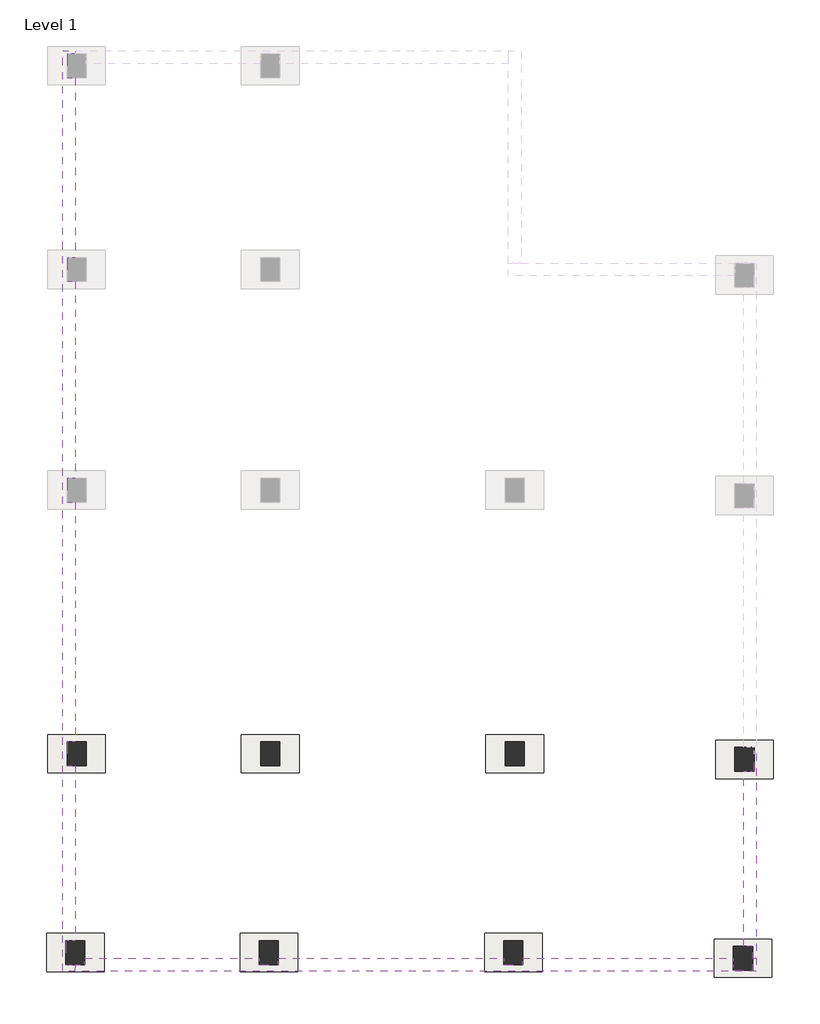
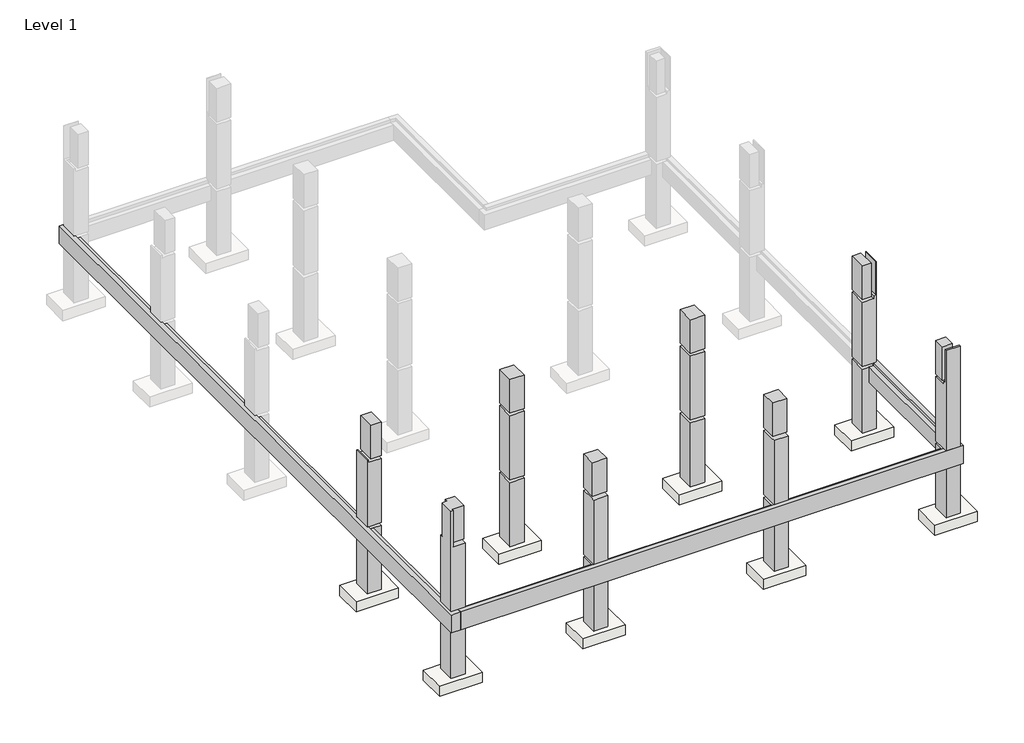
# One storey, part 1 of 2: 8 columns, 8 slabs, 3 beams.
"""IFC4 building model written with IfcOpenShell, lengths in millimetres."""

import ifcopenshell
import ifcopenshell.guid

model = None  # the IFC model being written
_history = None  # IfcOwnerHistory: only IFC2X3 demands one
_inside = {}  # id of a spatial element -> (the spatial element, [elements in it])
_under = {}  # id of a project, library or spatial element -> (it, [spatial elements below it])
_declared = {}  # id of a project -> (the project, [libraries it declares])
_typed = {}  # id of a type object -> (the type object, [elements of that type])
_made_of = {}  # id of a material, layer set ... -> (it, [elements and type objects made of it])


def new_model(schema):
    """Start an empty IFC model of exactly this schema.

    Asked for "IFC4X3", IfcOpenShell would pick the latest addendum, in which some entities
    have other attributes; the version numbers below select the first issue.
    IFC2X3 requires an IfcOwnerHistory on every rooted entity: one is made here for all.
    """
    global model, _history
    if schema == "IFC4X3":
        model = ifcopenshell.file(schema_version=(4, 3, 0, 0))
    else:
        model = ifcopenshell.file(schema=schema)
    _inside.clear()
    _under.clear()
    _declared.clear()
    _typed.clear()
    _made_of.clear()
    _history = None
    if model.schema == "IFC2X3":
        org = make("IfcOrganization", Name="unknown")
        user = make(
            "IfcPersonAndOrganization",
            ThePerson=make("IfcPerson", FamilyName="unknown"),
            TheOrganization=org,
        )
        app = make(
            "IfcApplication",
            ApplicationDeveloper=org,
            Version="unknown",
            ApplicationFullName="unknown",
            ApplicationIdentifier="unknown",
        )
        _history = make(
            "IfcOwnerHistory",
            OwningUser=user,
            OwningApplication=app,
            ChangeAction="ADDED",
            CreationDate=0,
        )
    return model


def make(cls, **values):
    """One entity of the class cls with the attributes given. An attribute that is None is left unset."""
    return model.create_entity(
        cls, **{name: value for name, value in values.items() if value is not None}
    )


def rooted(cls, **values):
    """An entity with a GlobalId (a new one), such as an element, a storey or a relation."""
    return make(cls, GlobalId=ifcopenshell.guid.new(), OwnerHistory=_history, **values)


def si_unit(unit_type, name, prefix=None):
    """IfcSIUnit, for example si_unit("LENGTHUNIT", "METRE", prefix="MILLI")."""
    return make("IfcSIUnit", UnitType=unit_type, Prefix=prefix, Name=name)


def assignment(units):
    """IfcUnitAssignment: the units of a project."""
    return None if units is None else make("IfcUnitAssignment", Units=units)


def point(xyz):
    """IfcCartesianPoint."""
    return None if xyz is None else make("IfcCartesianPoint", Coordinates=xyz)


def direction(xyz):
    """IfcDirection."""
    return None if xyz is None else make("IfcDirection", DirectionRatios=xyz)


def frame(location, z_axis=None, x_axis=None):
    """IfcAxis2Placement3D, a coordinate frame: its origin and axes. An axis left out is left unset."""
    return make(
        "IfcAxis2Placement3D",
        Location=point(location),
        Axis=direction(z_axis),
        RefDirection=direction(x_axis),
    )


def origin():
    """The frame at (0, 0, 0) with its axes left unset."""
    return frame((0.0, 0.0, 0.0))


def origin_with_axes():
    """The frame at (0, 0, 0) with the z axis (0, 0, 1) and the x axis (1, 0, 0) written out."""
    return frame((0.0, 0.0, 0.0), z_axis=(0.0, 0.0, 1.0), x_axis=(1.0, 0.0, 0.0))


def place(relative_to, where):
    """IfcLocalPlacement: puts the frame where relative to a parent placement (None: the world)."""
    return make(
        "IfcLocalPlacement", PlacementRelTo=relative_to, RelativePlacement=where
    )


def context(
    kind, dimensions, precision=None, world=None, true_north=None, identifier=None
):
    """IfcGeometricRepresentationContext, for example the 3D "Model" context."""
    return make(
        "IfcGeometricRepresentationContext",
        ContextIdentifier=identifier,
        ContextType=kind,
        CoordinateSpaceDimension=dimensions,
        Precision=precision,
        WorldCoordinateSystem=world,
        TrueNorth=true_north,
    )


def project(units=None, contexts=None):
    """IfcProject with its units and contexts."""
    return rooted(
        "IfcProject",
        Name="project",
        RepresentationContexts=contexts,
        UnitsInContext=assignment(units),
    )


def spatial(cls, under=None, at=None, **own):
    """A site, building, storey or space (cls), placed at a placement, below another one or the project."""
    s = rooted(cls, ObjectPlacement=at, **own)
    if under is not None:
        _under.setdefault(under.id(), (under, []))[1].append(s)
    return s


def polyline(points):
    """IfcPolyline through the points."""
    return make("IfcPolyline", Points=[point(p) for p in points])


def outline(outer, holes=None, kind="AREA"):
    """IfcArbitraryClosedProfileDef: a profile drawn as a closed curve; with holes, ...WithVoids."""
    if holes is None:
        return make("IfcArbitraryClosedProfileDef", ProfileType=kind, OuterCurve=outer)
    return make(
        "IfcArbitraryProfileDefWithVoids",
        ProfileType=kind,
        OuterCurve=outer,
        InnerCurves=holes,
    )


def extrude(swept, where, along, depth):
    """IfcExtrudedAreaSolid: the profile swept, set in the frame where, extruded along a direction by depth."""
    return make(
        "IfcExtrudedAreaSolid",
        SweptArea=swept,
        Position=where,
        ExtrudedDirection=direction(along),
        Depth=depth,
    )


def faces_of(points, faces, orient=None, outer=None):
    """IfcFace entities. A face is a list of loops; a loop is a list of indices into points, from 0.

    orient and outer hold one flag for each loop. By default every Orientation is true, the
    first loop of a face is its IfcFaceOuterBound and the others are IfcFaceBound.
    """
    made = []
    for i, loops in enumerate(faces):
        bounds = []
        for j, loop in enumerate(loops):
            is_outer = j == 0 if outer is None else outer[i][j]
            bounds.append(
                make(
                    "IfcFaceOuterBound" if is_outer else "IfcFaceBound",
                    Bound=make("IfcPolyLoop", Polygon=[points[k] for k in loop]),
                    Orientation=True if orient is None else orient[i][j],
                )
            )
        made.append(make("IfcFace", Bounds=bounds))
    return made


def faceted_brep(points, faces, orient=None, outer=None, voids=None):
    """IfcFacetedBrep: a solid bounded by flat faces; with voids (closed shells), ...WithVoids."""
    shared = [point(p) for p in points]
    hull = make("IfcClosedShell", CfsFaces=faces_of(shared, faces, orient, outer))
    if voids is None:
        return make("IfcFacetedBrep", Outer=hull)
    return make(
        "IfcFacetedBrepWithVoids",
        Outer=hull,
        Voids=[
            make(cls, CfsFaces=faces_of(shared, fs, o, b)) for cls, fs, o, b in voids
        ],
    )


def shape(context_of_items, identifier, shape_type, items):
    """IfcShapeRepresentation: the items that make up one representation, for example the "Body"."""
    return make(
        "IfcShapeRepresentation",
        ContextOfItems=context_of_items,
        RepresentationIdentifier=identifier,
        RepresentationType=shape_type,
        Items=items,
    )


def source(mapping_origin, context_of_items, identifier, shape_type, items):
    """IfcRepresentationMap: a shape defined once, which mapped items show again and again."""
    return make(
        "IfcRepresentationMap",
        MappingOrigin=mapping_origin,
        MappedRepresentation=shape(context_of_items, identifier, shape_type, items),
    )


def transform(
    local_origin,
    x_axis=None,
    y_axis=None,
    z_axis=None,
    scale=None,
    scale2=None,
    scale3=None,
    uniform=True,
):
    """IfcCartesianTransformationOperator3D, or its non-uniform kind. x_axis, y_axis, z_axis: its Axis1, 2, 3."""
    if uniform:
        return make(
            "IfcCartesianTransformationOperator3D",
            Axis1=direction(x_axis),
            Axis2=direction(y_axis),
            LocalOrigin=point(local_origin),
            Scale=scale,
            Axis3=direction(z_axis),
        )
    return make(
        "IfcCartesianTransformationOperator3DnonUniform",
        Axis1=direction(x_axis),
        Axis2=direction(y_axis),
        LocalOrigin=point(local_origin),
        Scale=scale,
        Axis3=direction(z_axis),
        Scale2=scale2,
        Scale3=scale3,
    )


def mapped(mapping_source, mapping_target):
    """IfcMappedItem: shows the shape of a source again, moved by a transform."""
    return make(
        "IfcMappedItem", MappingSource=mapping_source, MappingTarget=mapping_target
    )


def made_of(thing, what):
    """Note that an element or type object is made of a material, layer set ...; save() writes the relation."""
    if what is not None:
        _made_of.setdefault(what.id(), (what, []))[1].append(thing)
    return thing


def element(
    cls,
    number,
    at=None,
    inside=None,
    cuts=None,
    type_object=None,
    material=None,
    context=None,
    identifier="Body",
    shape_type=None,
    held_by="IfcProductDefinitionShape",
    body=None,
    shapes=None,
    **own,
):
    """One element of the class cls, such as IfcWall. Its Tag is "e" and its number.

    at: its placement. inside: the storey or other place that contains it. cuts: it is an
    opening in that element (IfcRelVoidsElement). A single representation is given by context,
    identifier, shape_type and body (its items); several are given by shapes. held_by: the class
    of the entity that holds the representations. save() writes the other relations.
    """
    e = rooted(cls, Tag="e%d" % number, ObjectPlacement=at, **own)
    if body is not None:
        shapes = [shape(context, identifier, shape_type, body)]
    if shapes is not None:
        e.Representation = make(held_by, Representations=shapes)
    if inside is not None:
        _inside.setdefault(inside.id(), (inside, []))[1].append(e)
    if cuts is not None:
        rooted(
            "IfcRelVoidsElement", RelatingBuildingElement=cuts, RelatedOpeningElement=e
        )
    if type_object is not None:
        _typed.setdefault(type_object.id(), (type_object, []))[1].append(e)
    return made_of(e, material)


def aggregate(whole, parts):
    """IfcRelAggregates: a whole, such as a stair, and the parts it consists of."""
    return rooted("IfcRelAggregates", RelatingObject=whole, RelatedObjects=parts)


def save(model, path):
    """Write the relations noted so far, then the file.

    IfcRelAggregates (storeys below a building ...), IfcRelContainedInSpatialStructure (elements
    in a storey), IfcRelDefinesByType, IfcRelAssociatesMaterial and IfcRelDeclares: one each for
    every whole, place, type object, material and project.
    """
    for whole, parts in _under.values():
        aggregate(whole, parts)
    for where, things in _inside.values():
        rooted(
            "IfcRelContainedInSpatialStructure",
            RelatedElements=things,
            RelatingStructure=where,
        )
    for kind, things in _typed.values():
        rooted("IfcRelDefinesByType", RelatedObjects=things, RelatingType=kind)
    for what, things in _made_of.values():
        rooted("IfcRelAssociatesMaterial", RelatedObjects=things, RelatingMaterial=what)
    for by, libraries in _declared.values():
        rooted("IfcRelDeclares", RelatingContext=by, RelatedDefinitions=libraries)
    model.write(path)


def slab_05425d98(model_context):
    return source(origin(), model_context, "Body", "SweptSolid", [
        extrude(outline(polyline([(914.4, 609.6), (914.4, -609.6), (-914.4, -609.6), (-914.4, 609.6), (914.4, 609.6)])), frame((0.0, 0.0, -457.2), z_axis=(0.0, 0.0, 1.0), x_axis=(1.0, 0.0, 0.0)), (0.0, 0.0, 1.0), 457.2),
    ])


model = new_model("IFC4")

# Units and contexts
model_context = context("Model", 3, world=origin())
ifc_project = project(units=[si_unit("LENGTHUNIT", "METRE", prefix="MILLI")], contexts=[model_context])

# Site, building, storey
site = spatial("IfcSite", under=ifc_project)
building = spatial("IfcBuilding", under=site)
storey = spatial("IfcBuildingStorey", under=building, Name="Level 1", Elevation=0.0)

# Beams
placement = place(None, origin())
element("IfcBeam", 1, ObjectType="Concrete-Rectangular Beam : 16 x 32", at=placement, inside=storey, context=model_context, shape_type="Brep", body=[
    faceted_brep([(-15975.9923576, 18300.6217357, 3048.0), (-16382.3923576, 18300.6217357, 3048.0), (-16382.3923576, -10950.0239291, 3048.0), (-15975.9923576, -10950.0239291, 3048.0), (-15975.9923576, -10746.8239291, 3048.0), (-16179.1923576, -10746.8239291, 3048.0), (-16280.7923576, -10746.8239291, 3048.0), (-16280.7923576, -9984.8239291, 3048.0), (-16179.1923576, -9984.8239291, 3048.0), (-16179.1923576, -4422.2239291, 3048.0), (-16236.8047678, -4422.2239291, 3048.0), (-16236.8047678, -3660.2239291, 3048.0), (-16179.1923576, -3660.2239291, 3048.0), (-16179.1923576, 3959.7760709, 3048.0), (-16236.8047678, 3959.7760709, 3048.0), (-16236.8047678, 4721.7760709, 3048.0), (-16179.1923576, 4721.7760709, 3048.0), (-16179.1923576, 10970.1760709, 3048.0), (-16236.8047678, 10970.1760709, 3048.0), (-16236.8047678, 11732.1760709, 3048.0), (-16179.1923576, 11732.1760709, 3048.0), (-16179.1923576, 17448.7872446, 3048.0), (-16236.8047678, 17448.7872446, 3048.0), (-16236.8047678, 18210.7872446, 3048.0), (-15975.9923576, 18210.7872446, 3048.0), (-16382.3923576, 18300.6217357, 2235.2), (-16382.3923576, -10950.0239291, 2235.2), (-16236.8047678, 17448.7872446, 2235.2), (-15975.9923576, 17448.7872446, 2235.2), (-15975.9923576, 11732.1760709, 2235.2), (-16236.8047678, 11732.1760709, 2235.2), (-16236.8047678, 10970.1760709, 2235.2), (-15975.9923576, 10970.1760709, 2235.2), (-15975.9923576, 4721.7760709, 2235.2), (-16236.8047678, 4721.7760709, 2235.2), (-16236.8047678, 3959.7760709, 2235.2), (-15975.9923576, 3959.7760709, 2235.2), (-15975.9923576, -3660.2239291, 2235.2), (-16236.8047678, -3660.2239291, 2235.2), (-16236.8047678, -4422.2239291, 2235.2), (-15975.9923576, -4422.2239291, 2235.2), (-15975.9923576, -9984.8239291, 2235.2), (-16280.7923576, -9984.8239291, 2235.2), (-16280.7923576, -10746.8239291, 2235.2), (-15975.9923576, -10746.8239291, 2235.2), (-15975.9923576, -10950.0239291, 2235.2), (-15975.9923576, 18300.6217357, 2235.2), (-15975.9923576, 18210.7872446, 2235.2), (-16236.8047678, 18210.7872446, 2235.2), (-15975.9923576, -10746.8239291, 2921.0), (-16179.1923576, 17448.7872446, 2921.0), (-15975.9923576, 17448.7872446, 2921.0), (-15975.9923576, -9984.8239291, 2921.0), (-16179.1923576, -9984.8239291, 2921.0), (-16179.1923576, 10970.1760709, 2921.0), (-15975.9923576, 10970.1760709, 2921.0), (-15975.9923576, 11732.1760709, 2921.0), (-16179.1923576, 11732.1760709, 2921.0), (-16179.1923576, 3959.7760709, 2921.0), (-15975.9923576, 3959.7760709, 2921.0), (-15975.9923576, 4721.7760709, 2921.0), (-16179.1923576, 4721.7760709, 2921.0), (-16179.1923576, -4422.2239291, 2921.0), (-15975.9923576, -4422.2239291, 2921.0), (-15975.9923576, -3660.2239291, 2921.0), (-16179.1923576, -3660.2239291, 2921.0)], [[[0, 1, 2, 3, 4, 5, 6, 7, 8, 9, 10, 11, 12, 13, 14, 15, 16, 17, 18, 19, 20, 21, 22, 23, 24]], [[1, 25, 26, 2]], [[27, 28, 29, 30, 31, 32, 33, 34, 35, 36, 37, 38, 39, 40, 41, 42, 43, 44, 45, 26, 25, 46, 47, 48]], [[3, 45, 44, 49, 4]], [[28, 27, 22, 21, 50, 51]], [[42, 41, 52, 53, 8, 7]], [[32, 31, 18, 17, 54, 55]], [[30, 29, 56, 57, 20, 19]], [[36, 35, 14, 13, 58, 59]], [[34, 33, 60, 61, 16, 15]], [[40, 39, 10, 9, 62, 63]], [[38, 37, 64, 65, 12, 11]], [[50, 57, 56, 51]], [[53, 62, 9, 8]], [[54, 61, 60, 55]], [[58, 65, 64, 59]], [[62, 53, 52, 63]], [[65, 58, 13, 12]], [[61, 54, 17, 16]], [[57, 50, 21, 20]], [[1, 0, 46, 25]], [[3, 2, 26, 45]], [[22, 27, 48, 23]], [[42, 7, 6, 43]], [[18, 31, 30, 19]], [[14, 35, 34, 15]], [[10, 39, 38, 11]], [[23, 48, 47, 24]], [[46, 0, 24, 47]], [[43, 6, 5, 4, 49, 44]], [[41, 40, 63, 52]], [[29, 28, 51, 56]], [[33, 32, 55, 60]], [[37, 36, 59, 64]]]),
])
element("IfcBeam", 2, ObjectType="Concrete-Rectangular Beam : 16 x 32", at=placement, inside=storey, context=model_context, shape_type="Brep", body=[
    faceted_brep([(5678.6233565, -10950.0239291, 3048.0), (5678.6233565, -10543.6239291, 3048.0), (5557.2160403, -10543.6239291, 3048.0), (5557.2160403, -10925.8436556, 3048.0), (4947.6160403, -10925.8436556, 3048.0), (4947.6160403, -10746.8239291, 3048.0), (-15975.9923576, -10746.8239291, 3048.0), (-15975.9923576, -10950.0239291, 3048.0), (-15975.9923576, -10950.0239291, 2235.2), (5678.6233565, -10950.0239291, 2235.2), (-15671.1923576, -10746.8239291, 2235.2), (-15671.1923576, -10543.6239291, 2235.2), (-10127.1799474, -10543.6239291, 2235.2), (-10127.1799474, -10746.8239291, 2235.2), (-9517.5799474, -10746.8239291, 2235.2), (-9517.5799474, -10543.6239291, 2235.2), (-2354.7799474, -10543.6239291, 2235.2), (-2354.7799474, -10746.8239291, 2235.2), (-1745.1799474, -10746.8239291, 2235.2), (-1745.1799474, -10543.6239291, 2235.2), (4947.6160403, -10543.6239291, 2235.2), (4947.6160403, -10925.8436556, 2235.2), (5557.2160403, -10925.8436556, 2235.2), (5557.2160403, -10543.6239291, 2235.2), (5678.6233565, -10543.6239291, 2235.2), (-15975.9923576, -10746.8239291, 2235.2), (-15671.1923576, -10746.8239291, 2921.0), (-15671.1923576, -10543.6239291, 2921.0), (4947.6160403, -10543.6239291, 2921.0), (4947.6160403, -10746.8239291, 2921.0), (-9517.5799474, -10746.8239291, 2921.0), (-9517.5799474, -10543.6239291, 2921.0), (-10127.1799474, -10543.6239291, 2921.0), (-10127.1799474, -10746.8239291, 2921.0), (-1745.1799474, -10746.8239291, 2921.0), (-1745.1799474, -10543.6239291, 2921.0), (-2354.7799474, -10543.6239291, 2921.0), (-2354.7799474, -10746.8239291, 2921.0)], [[[0, 1, 2, 3, 4, 5, 6, 7]], [[7, 8, 9, 0]], [[10, 11, 12, 13, 14, 15, 16, 17, 18, 19, 20, 21, 22, 23, 24, 9, 8, 25]], [[1, 24, 23, 2]], [[8, 7, 6, 25]], [[11, 10, 26, 27]], [[21, 20, 28, 29, 5, 4]], [[15, 14, 30, 31]], [[13, 12, 32, 33]], [[19, 18, 34, 35]], [[17, 16, 36, 37]], [[26, 33, 32, 27]], [[30, 37, 36, 31]], [[34, 29, 28, 35]], [[1, 0, 9, 24]], [[3, 2, 23, 22]], [[37, 30, 14, 13, 33, 26, 10, 25, 6, 5, 29, 34, 18, 17]], [[3, 22, 21, 4]], [[20, 19, 35, 28]], [[12, 11, 27, 32]], [[16, 15, 31, 36]]]),
])
element("IfcBeam", 3, ObjectType="Concrete-Rectangular Beam : 16 x 32", at=placement, inside=storey, context=model_context, shape_type="Brep", body=[
    faceted_brep([(5601.20363, -4601.2436556, 3048.0), (5475.4233565, -4601.2436556, 3048.0), (5475.4233565, -10163.8436556, 3048.0), (5557.2160403, -10163.8436556, 3048.0), (5557.2160403, -10543.6239291, 3048.0), (5678.6233565, -10543.6239291, 3048.0), (5678.6233565, -4041.2239291, 3048.0), (5601.20363, -4041.2239291, 3048.0), (5678.6233565, -4041.2239291, 2235.2), (5678.6233565, -10543.6239291, 2235.2), (5272.2233565, -4601.2436556, 2235.2), (5601.20363, -4601.2436556, 2235.2), (5601.20363, -4041.2239291, 2235.2), (5557.2160403, -10543.6239291, 2235.2), (5557.2160403, -10163.8436556, 2235.2), (5272.2233565, -10163.8436556, 2235.2), (5272.2233565, -4601.2436556, 2921.0), (5272.2233565, -10163.8436556, 2921.0), (5475.4233565, -4601.2436556, 2921.0), (5475.4233565, -10163.8436556, 2921.0)], [[[0, 1, 2, 3, 4, 5, 6, 7]], [[8, 6, 5, 9]], [[10, 11, 12, 8, 9, 13, 14, 15]], [[16, 10, 15, 17]], [[6, 8, 12, 7]], [[11, 10, 16, 18, 1, 0]], [[9, 5, 4, 13]], [[18, 16, 17, 19]], [[1, 18, 19, 2]], [[11, 0, 7, 12]], [[3, 14, 13, 4]], [[14, 3, 2, 19, 17, 15]]]),
])

# Columns
element("IfcColumn", 4, ObjectType="Concrete-Rectangular-Column : 24 x 30", at=placement, inside=storey, context=model_context, shape_type="Brep", body=[
    faceted_brep([(-15627.2047678, -3660.2239291, 0.0), (-15627.2047678, -4422.2239291, 0.0), (-16236.8047678, -4422.2239291, 0.0), (-16236.8047678, -3660.2239291, 0.0), (-16236.8047678, -4422.2239291, 2235.2), (-16236.8047678, -4422.2239291, 3048.0), (-16236.8047678, -4422.2239291, 5283.2), (-16236.8047678, -4422.2239291, 6096.0), (-16236.8047678, -3660.2239291, 6096.0), (-16236.8047678, -3660.2239291, 5283.2), (-16236.8047678, -3660.2239291, 3048.0), (-16236.8047678, -3660.2239291, 2235.2), (-16179.1923576, -3660.2239291, 2921.0), (-16179.1923576, -4422.2239291, 2921.0), (-15975.9923576, -4422.2239291, 2921.0), (-15627.2047678, -4422.2239291, 2921.0), (-15627.2047678, -3660.2239291, 2921.0), (-15975.9923576, -3660.2239291, 2921.0), (-16179.1923576, -4422.2239291, 3048.0), (-16179.1923576, -3660.2239291, 3048.0), (-15627.2047678, -3660.2239291, 3048.0), (-15627.2047678, -4422.2239291, 3048.0), (-16179.1923576, -3660.2239291, 5969.0), (-16179.1923576, -4422.2239291, 5969.0), (-15975.9923576, -4422.2239291, 5969.0), (-15627.2047678, -4422.2239291, 5969.0), (-15627.2047678, -3660.2239291, 5969.0), (-15975.9923576, -3660.2239291, 5969.0), (-16179.1923576, -3660.2239291, 6096.0), (-16179.1923576, -4422.2239291, 6096.0)], [[[0, 1, 2, 3]], [[3, 2, 4, 5, 6, 7, 8, 9, 10, 11]], [[12, 13, 14, 15, 16, 17]], [[18, 19, 20, 21]], [[13, 12, 19, 18]], [[1, 0, 16, 15]], [[22, 23, 24, 25, 26, 27]], [[23, 22, 28, 29]], [[21, 20, 26, 25]], [[7, 29, 28, 8]], [[2, 1, 15, 14, 13, 18, 21, 25, 24, 23, 29, 7, 6, 5, 4]], [[0, 3, 11, 10, 9, 8, 28, 22, 27, 26, 20, 19, 12, 17, 16]]]),
    faceted_brep([(-15627.2047678, -3660.2239291, 7620.0), (-15627.2047678, -4422.2239291, 7620.0), (-15627.2047678, -4422.2239291, 6096.0), (-15627.2047678, -3660.2239291, 6096.0), (-16077.5923576, -4422.2239291, 7620.0), (-16077.5923576, -4422.2239291, 6096.0), (-16077.5923576, -3660.2239291, 6096.0), (-16077.5923576, -3660.2239291, 7620.0)], [[[0, 1, 2, 3]], [[2, 1, 4, 5]], [[0, 3, 6, 7]], [[1, 0, 7, 4]], [[3, 2, 5, 6]], [[5, 4, 7, 6]]]),
])
element("IfcColumn", 5, ObjectType="Concrete-Rectangular-Column : 24 x 30", at=placement, inside=storey, context=model_context, shape_type="Brep", body=[
    faceted_brep([(-15671.1923576, -9984.8239291, 0.0), (-15671.1923576, -10746.8239291, 0.0), (-16280.7923576, -10746.8239291, 0.0), (-16280.7923576, -9984.8239291, 0.0), (-15671.1923576, -9984.8239291, 6096.0), (-15671.1923576, -9984.8239291, 7620.0), (-15671.1923576, -10645.2239291, 7620.0), (-15671.1923576, -10645.2239291, 6096.0), (-15671.1923576, -10746.8239291, 2921.0), (-16179.1923576, -10746.8239291, 2921.0), (-16179.1923576, -10746.8239291, 3048.0), (-15671.1923576, -10746.8239291, 3048.0), (-15671.1923576, -10746.8239291, 5969.0), (-16179.1923576, -10746.8239291, 5969.0), (-16179.1923576, -10746.8239291, 6096.0), (-16179.1923576, -10746.8239291, 7620.0), (-16280.7923576, -10746.8239291, 7620.0), (-16280.7923576, -10096.5782643, 7620.0), (-16280.7923576, -10096.5782643, 6096.0), (-16280.7923576, -9984.8239291, 6096.0), (-16077.5923576, -9984.8239291, 6096.0), (-16077.5923576, -9984.8239291, 7620.0), (-16077.5923576, -10096.5782643, 7620.0), (-16179.1923576, -10645.2239291, 7620.0), (-16179.1923576, -9984.8239291, 2921.0), (-15671.1923576, -9984.8239291, 2921.0), (-16179.1923576, -9984.8239291, 3048.0), (-15671.1923576, -9984.8239291, 3048.0), (-16179.1923576, -9984.8239291, 5969.0), (-15671.1923576, -9984.8239291, 5969.0), (-16179.1923576, -10645.2239291, 6096.0), (-16179.1923576, -10096.5782643, 6096.0), (-16077.5923576, -10096.5782643, 6096.0), (-16179.1923576, -9984.8239291, 6096.0)], [[[0, 1, 2, 3]], [[4, 5, 6, 7]], [[2, 1, 8, 9, 10, 11, 12, 13, 14, 15, 16]], [[3, 2, 16, 17, 18, 19]], [[5, 4, 20, 21]], [[6, 5, 21, 22, 17, 16, 15, 23]], [[24, 9, 8, 25]], [[10, 26, 27, 11]], [[9, 24, 26, 10]], [[28, 13, 12, 29]], [[4, 7, 30, 31, 32, 20]], [[13, 28, 33, 31, 30, 23, 15, 14]], [[23, 30, 7, 6]], [[1, 0, 25, 8]], [[11, 27, 29, 12]], [[32, 22, 21, 20]], [[18, 31, 33, 19]], [[22, 32, 31, 18, 17]], [[0, 3, 19, 33, 28, 29, 27, 26, 24, 25]]]),
])
element("IfcColumn", 6, ObjectType="Concrete-Rectangular-Column : 24 x 30", at=placement, inside=storey, context=model_context, shape_type="SweptSolid", body=[
    extrude(outline(polyline([(-9473.5923576, -3660.2239291), (-9473.5923576, -4422.2239291), (-10083.1923576, -4422.2239291), (-10083.1923576, -3660.2239291), (-9473.5923576, -3660.2239291)])), origin_with_axes(), (0.0, 0.0, 1.0), 2921.0),
    extrude(outline(polyline([(-9473.5923576, -3660.2239291), (-9473.5923576, -4422.2239291), (-10083.1923576, -4422.2239291), (-10083.1923576, -3660.2239291), (-9473.5923576, -3660.2239291)])), frame((0.0, 0.0, 6096.0), z_axis=(0.0, 0.0, 1.0), x_axis=(1.0, 0.0, 0.0)), (0.0, 0.0, 1.0), 1524.0),
    extrude(outline(polyline([(-9473.5923576, -3660.2239291), (-9473.5923576, -4422.2239291), (-10083.1923576, -4422.2239291), (-10083.1923576, -3660.2239291), (-9473.5923576, -3660.2239291)])), frame((0.0, 0.0, 3048.0), z_axis=(0.0, 0.0, 1.0), x_axis=(1.0, 0.0, 0.0)), (0.0, 0.0, 1.0), 2921.0),
])
element("IfcColumn", 7, ObjectType="Concrete-Rectangular-Column : 24 x 30", at=placement, inside=storey, context=model_context, shape_type="SweptSolid", body=[
    extrude(outline(polyline([(-1701.1923576, -3660.2239291), (-1701.1923576, -4422.2239291), (-2310.7923576, -4422.2239291), (-2310.7923576, -3660.2239291), (-1701.1923576, -3660.2239291)])), origin_with_axes(), (0.0, 0.0, 1.0), 2921.0),
    extrude(outline(polyline([(-1701.1923576, -3660.2239291), (-1701.1923576, -4422.2239291), (-2310.7923576, -4422.2239291), (-2310.7923576, -3660.2239291), (-1701.1923576, -3660.2239291)])), frame((0.0, 0.0, 6096.0), z_axis=(0.0, 0.0, 1.0), x_axis=(1.0, 0.0, 0.0)), (0.0, 0.0, 1.0), 1524.0),
    extrude(outline(polyline([(-1701.1923576, -3660.2239291), (-1701.1923576, -4422.2239291), (-2310.7923576, -4422.2239291), (-2310.7923576, -3660.2239291), (-1701.1923576, -3660.2239291)])), frame((0.0, 0.0, 3048.0), z_axis=(0.0, 0.0, 1.0), x_axis=(1.0, 0.0, 0.0)), (0.0, 0.0, 1.0), 2921.0),
])
element("IfcColumn", 8, ObjectType="Concrete-Rectangular-Column : 24 x 30", at=placement, inside=storey, context=model_context, shape_type="Brep", body=[
    faceted_brep([(5601.20363, -3839.2436556, 0.0), (5601.20363, -4601.2436556, 0.0), (4991.60363, -4601.2436556, 0.0), (4991.60363, -3839.2436556, 0.0), (5601.20363, -3839.2436556, 7620.0), (5601.20363, -4601.2436556, 7620.0), (5577.0233565, -3839.2436556, 7620.0), (5577.0233565, -4601.2436556, 7620.0), (5475.4233565, -4601.2436556, 2921.0), (5475.4233565, -4041.2239291, 2921.0), (5475.4233565, -3839.2436556, 2921.0), (4991.60363, -3839.2436556, 2921.0), (4991.60363, -4601.2436556, 2921.0), (5475.4233565, -3839.2436556, 3048.0), (5475.4233565, -4041.2239291, 3048.0), (5475.4233565, -4601.2436556, 3048.0), (4991.60363, -4601.2436556, 3048.0), (4991.60363, -3839.2436556, 3048.0), (5475.4233565, -4601.2436556, 5969.0), (5475.4233565, -4041.2239291, 5969.0), (5475.4233565, -3839.2436556, 5969.0), (4991.60363, -3839.2436556, 5969.0), (4991.60363, -4601.2436556, 5969.0), (5475.4233565, -4041.2239291, 6096.0), (5475.4233565, -3839.2436556, 6096.0), (5475.4233565, -4601.2436556, 6096.0), (5577.0233565, -3839.2436556, 6096.0), (5577.0233565, -4601.2436556, 6096.0)], [[[0, 1, 2, 3]], [[1, 0, 4, 5]], [[5, 4, 6, 7]], [[8, 9, 10, 11, 12]], [[13, 14, 15, 16, 17]], [[9, 14, 13, 10]], [[14, 9, 8, 15]], [[3, 2, 12, 11]], [[18, 19, 20, 21, 22]], [[19, 23, 24, 20]], [[23, 19, 18, 25]], [[17, 16, 22, 21]], [[26, 27, 7, 6]], [[27, 26, 24, 23, 25]], [[2, 1, 5, 7, 27, 25, 18, 22, 16, 15, 8, 12]], [[0, 3, 11, 10, 13, 17, 21, 20, 24, 26, 6, 4]]]),
    faceted_brep([(4991.60363, -4601.2436556, 7620.0), (4991.60363, -4601.2436556, 6096.0), (5373.8233565, -4601.2436556, 6096.0), (5373.8233565, -4601.2436556, 7620.0), (4991.60363, -3839.2436556, 7620.0), (4991.60363, -3839.2436556, 6096.0), (5373.8233565, -3839.2436556, 7620.0), (5373.8233565, -3839.2436556, 6096.0)], [[[0, 1, 2, 3]], [[0, 4, 5, 1]], [[5, 4, 6, 7]], [[1, 5, 7, 2]], [[3, 2, 7, 6]], [[4, 0, 3, 6]]]),
])
element("IfcColumn", 9, ObjectType="Concrete-Rectangular-Column : 24 x 30", at=placement, inside=storey, context=model_context, shape_type="Brep", body=[
    faceted_brep([(-9517.5799474, -9984.8239291, 0.0), (-9517.5799474, -10746.8239291, 0.0), (-10127.1799474, -10746.8239291, 0.0), (-10127.1799474, -9984.8239291, 0.0), (-9517.5799474, -10746.8239291, 2921.0), (-9517.5799474, -10543.6239291, 2921.0), (-9517.5799474, -9984.8239291, 2921.0), (-10127.1799474, -9984.8239291, 2921.0), (-10127.1799474, -10543.6239291, 2921.0), (-10127.1799474, -10746.8239291, 2921.0), (-9517.5799474, -10746.8239291, 2235.2), (-10127.1799474, -10746.8239291, 2235.2)], [[[0, 1, 2, 3]], [[4, 5, 6, 7, 8, 9]], [[0, 3, 7, 6]], [[1, 0, 6, 5, 4, 10]], [[2, 1, 10, 4, 9, 11]], [[3, 2, 11, 9, 8, 7]]]),
    faceted_brep([(-9517.5799474, -9984.8239291, 6096.0), (-9517.5799474, -9984.8239291, 7620.0), (-9517.5799474, -10645.2239291, 7620.0), (-9517.5799474, -10645.2239291, 6096.0), (-10127.1799474, -9984.8239291, 7620.0), (-10127.1799474, -9984.8239291, 6096.0), (-10127.1799474, -10645.2239291, 6096.0), (-10127.1799474, -10645.2239291, 7620.0)], [[[0, 1, 2, 3]], [[4, 5, 6, 7]], [[4, 1, 0, 5]], [[1, 4, 7, 2]], [[5, 0, 3, 6]], [[3, 2, 7, 6]]]),
    faceted_brep([(-9517.5799474, -9984.8239291, 3048.0), (-9517.5799474, -10746.8239291, 3048.0), (-10127.1799474, -10746.8239291, 3048.0), (-10127.1799474, -9984.8239291, 3048.0), (-9517.5799474, -10746.8239291, 5969.0), (-9517.5799474, -10543.6239291, 5969.0), (-9517.5799474, -9984.8239291, 5969.0), (-10127.1799474, -9984.8239291, 5969.0), (-10127.1799474, -10543.6239291, 5969.0), (-10127.1799474, -10746.8239291, 5969.0), (-9517.5799474, -10746.8239291, 5283.2), (-10127.1799474, -10746.8239291, 5283.2)], [[[0, 1, 2, 3]], [[4, 5, 6, 7, 8, 9]], [[0, 3, 7, 6]], [[1, 0, 6, 5, 4, 10]], [[2, 1, 10, 4, 9, 11]], [[3, 2, 11, 9, 8, 7]]]),
])
element("IfcColumn", 10, ObjectType="Concrete-Rectangular-Column : 24 x 30", at=placement, inside=storey, context=model_context, shape_type="Brep", body=[
    faceted_brep([(-1745.1799474, -9984.8239291, 0.0), (-1745.1799474, -10746.8239291, 0.0), (-2354.7799474, -10746.8239291, 0.0), (-2354.7799474, -9984.8239291, 0.0), (-1745.1799474, -10746.8239291, 2921.0), (-1745.1799474, -10543.6239291, 2921.0), (-1745.1799474, -9984.8239291, 2921.0), (-2354.7799474, -9984.8239291, 2921.0), (-2354.7799474, -10543.6239291, 2921.0), (-2354.7799474, -10746.8239291, 2921.0), (-1745.1799474, -10746.8239291, 2235.2), (-2354.7799474, -10746.8239291, 2235.2)], [[[0, 1, 2, 3]], [[4, 5, 6, 7, 8, 9]], [[0, 3, 7, 6]], [[1, 0, 6, 5, 4, 10]], [[2, 1, 10, 4, 9, 11]], [[3, 2, 11, 9, 8, 7]]]),
    faceted_brep([(-1745.1799474, -9984.8239291, 6096.0), (-1745.1799474, -9984.8239291, 7620.0), (-1745.1799474, -10645.2239291, 7620.0), (-1745.1799474, -10645.2239291, 6096.0), (-2354.7799474, -9984.8239291, 7620.0), (-2354.7799474, -9984.8239291, 6096.0), (-2354.7799474, -10645.2239291, 6096.0), (-2354.7799474, -10645.2239291, 7620.0)], [[[0, 1, 2, 3]], [[4, 5, 6, 7]], [[4, 1, 0, 5]], [[1, 4, 7, 2]], [[5, 0, 3, 6]], [[3, 2, 7, 6]]]),
    faceted_brep([(-1745.1799474, -9984.8239291, 3048.0), (-1745.1799474, -10746.8239291, 3048.0), (-2354.7799474, -10746.8239291, 3048.0), (-2354.7799474, -9984.8239291, 3048.0), (-1745.1799474, -10746.8239291, 5969.0), (-1745.1799474, -10543.6239291, 5969.0), (-1745.1799474, -9984.8239291, 5969.0), (-2354.7799474, -9984.8239291, 5969.0), (-2354.7799474, -10543.6239291, 5969.0), (-2354.7799474, -10746.8239291, 5969.0), (-1745.1799474, -10746.8239291, 5283.2), (-2354.7799474, -10746.8239291, 5283.2)], [[[0, 1, 2, 3]], [[4, 5, 6, 7, 8, 9]], [[0, 3, 7, 6]], [[1, 0, 6, 5, 4, 10]], [[2, 1, 10, 4, 9, 11]], [[3, 2, 11, 9, 8, 7]]]),
])
element("IfcColumn", 11, ObjectType="Concrete-Rectangular-Column : 24 x 30", at=placement, inside=storey, context=model_context, shape_type="Brep", body=[
    faceted_brep([(5557.2160403, -10163.8436556, 0.0), (5557.2160403, -10925.8436556, 0.0), (4947.6160403, -10925.8436556, 0.0), (4947.6160403, -10163.8436556, 0.0), (5557.2160403, -10163.8436556, 2235.2), (5557.2160403, -10163.8436556, 3048.0), (5557.2160403, -10163.8436556, 5283.2), (5557.2160403, -10163.8436556, 6096.0), (5557.2160403, -10543.6239291, 6096.0), (5557.2160403, -10848.4239291, 6096.0), (5557.2160403, -10848.4239291, 7620.0), (5557.2160403, -10925.8436556, 7620.0), (4947.6160403, -10925.8436556, 7620.0), (4947.6160403, -10848.4239291, 7620.0), (4947.6160403, -10746.8239291, 2921.0), (5475.4233565, -10746.8239291, 2921.0), (5475.4233565, -10163.8436556, 2921.0), (5272.2233565, -10163.8436556, 2921.0), (4947.6160403, -10163.8436556, 2921.0), (5475.4233565, -10163.8436556, 3048.0), (5475.4233565, -10746.8239291, 3048.0), (4947.6160403, -10746.8239291, 3048.0), (4947.6160403, -10163.8436556, 3048.0), (4947.6160403, -10746.8239291, 5969.0), (5475.4233565, -10746.8239291, 5969.0), (5475.4233565, -10163.8436556, 5969.0), (5272.2233565, -10163.8436556, 5969.0), (4947.6160403, -10163.8436556, 5969.0), (5475.4233565, -10746.8239291, 6096.0), (5475.4233565, -10163.8436556, 6096.0), (4947.6160403, -10746.8239291, 6096.0), (4947.6160403, -10848.4239291, 6096.0)], [[[0, 1, 2, 3]], [[1, 0, 4, 5, 6, 7, 8, 9, 10, 11]], [[2, 1, 11, 12]], [[12, 11, 10, 13]], [[14, 15, 16, 17, 18]], [[19, 20, 21, 22]], [[15, 20, 19, 16]], [[20, 15, 14, 21]], [[23, 24, 25, 26, 27]], [[24, 28, 29, 25]], [[28, 24, 23, 30]], [[31, 13, 10, 9]], [[30, 31, 9, 8, 7, 29, 28]], [[3, 2, 12, 13, 31, 30, 23, 27, 22, 21, 14, 18]], [[0, 3, 18, 17, 16, 19, 22, 27, 26, 25, 29, 7, 6, 5, 4]]]),
    faceted_brep([(4947.6160403, -10163.8436556, 7620.0), (4947.6160403, -10163.8436556, 6096.0), (4947.6160403, -10645.2239291, 6096.0), (4947.6160403, -10645.2239291, 7620.0), (5373.8233565, -10163.8436556, 7620.0), (5373.8233565, -10163.8436556, 6096.0), (5373.8233565, -10645.2239291, 6096.0), (5373.8233565, -10645.2239291, 7620.0)], [[[0, 1, 2, 3]], [[1, 0, 4, 5]], [[2, 1, 5, 6]], [[3, 2, 6, 7]], [[5, 4, 7, 6]], [[0, 3, 7, 4]]]),
])

# Slabs
slab_shape = slab_05425d98(model_context)
element("IfcSlab", 12, ObjectType="Footing-Rectangular : 72\" x 48\" x 18\"", at=placement, inside=storey, context=model_context, shape_type="MappedRepresentation", body=[
    mapped(slab_shape, transform((-15932.0047678, -4041.2239291, 0.0), x_axis=(1.0, 0.0, 0.0), y_axis=(0.0, 1.0, 0.0), z_axis=(0.0, 0.0, 1.0))),
])
element("IfcSlab", 13, ObjectType="Footing-Rectangular : 72\" x 48\" x 18\"", at=placement, inside=storey, context=model_context, shape_type="MappedRepresentation", body=[
    mapped(slab_shape, transform((-15975.9923576, -10365.8239291, 0.0), x_axis=(1.0, 0.0, 0.0), y_axis=(0.0, 1.0, 0.0), z_axis=(0.0, 0.0, 1.0))),
])
element("IfcSlab", 14, ObjectType="Footing-Rectangular : 72\" x 48\" x 18\"", at=placement, inside=storey, context=model_context, shape_type="MappedRepresentation", body=[
    mapped(slab_shape, transform((-9778.3923576, -4041.2239291, 0.0), x_axis=(1.0, 0.0, 0.0), y_axis=(0.0, 1.0, 0.0), z_axis=(0.0, 0.0, 1.0))),
])
element("IfcSlab", 15, ObjectType="Footing-Rectangular : 72\" x 48\" x 18\"", at=placement, inside=storey, context=model_context, shape_type="MappedRepresentation", body=[
    mapped(slab_shape, transform((-2005.9923576, -4041.2239291, 0.0), x_axis=(1.0, 0.0, 0.0), y_axis=(0.0, 1.0, 0.0), z_axis=(0.0, 0.0, 1.0))),
])
element("IfcSlab", 16, ObjectType="Footing-Rectangular : 72\" x 48\" x 18\"", at=placement, inside=storey, context=model_context, shape_type="MappedRepresentation", body=[
    mapped(slab_shape, transform((5296.40363, -4220.2436556, 0.0), x_axis=(1.0, 0.0, 0.0), y_axis=(0.0, 1.0, 0.0), z_axis=(0.0, 0.0, 1.0))),
])
element("IfcSlab", 17, ObjectType="Footing-Rectangular : 72\" x 48\" x 18\"", at=placement, inside=storey, context=model_context, shape_type="MappedRepresentation", body=[
    mapped(slab_shape, transform((-9822.3799474, -10365.8239291, 0.0), x_axis=(1.0, 0.0, 0.0), y_axis=(0.0, 1.0, 0.0), z_axis=(0.0, 0.0, 1.0))),
])
element("IfcSlab", 18, ObjectType="Footing-Rectangular : 72\" x 48\" x 18\"", at=placement, inside=storey, context=model_context, shape_type="MappedRepresentation", body=[
    mapped(slab_shape, transform((-2049.9799474, -10365.8239291, 0.0), x_axis=(1.0, 0.0, 0.0), y_axis=(0.0, 1.0, 0.0), z_axis=(0.0, 0.0, 1.0))),
])
element("IfcSlab", 19, ObjectType="Footing-Rectangular : 72\" x 48\" x 18\"", at=placement, inside=storey, context=model_context, shape_type="MappedRepresentation", body=[
    mapped(slab_shape, transform((5252.4160403, -10544.8436556, 0.0), x_axis=(1.0, 0.0, 0.0), y_axis=(0.0, 1.0, 0.0), z_axis=(0.0, 0.0, 1.0))),
])

save(model, "model.ifc")
